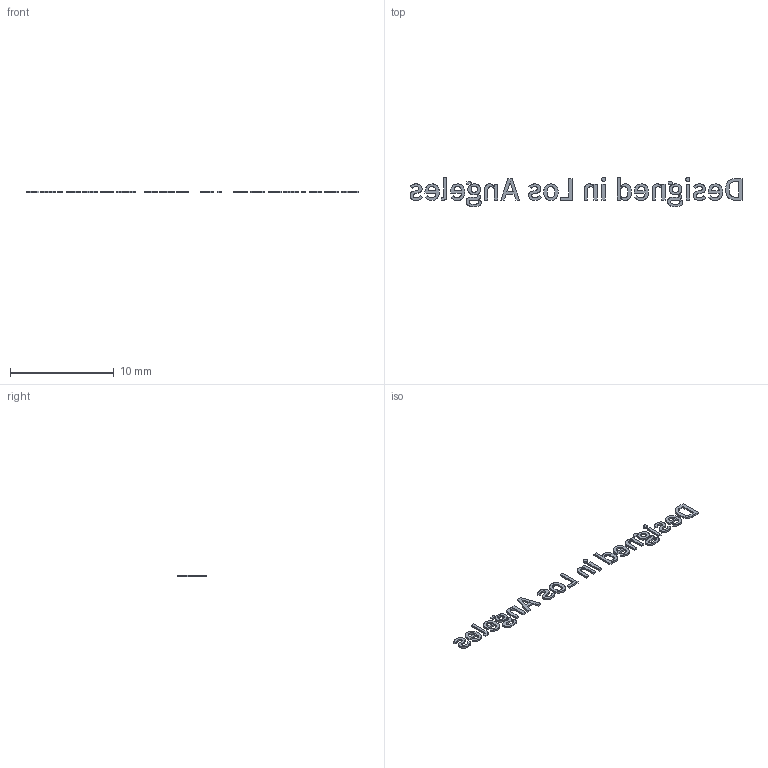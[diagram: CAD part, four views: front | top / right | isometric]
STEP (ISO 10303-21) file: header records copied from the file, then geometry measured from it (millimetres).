
FILE_DESCRIPTION(('Open CASCADE Model'),'2;1');
FILE_NAME('Open CASCADE Shape Model','2026-09-04T20:17:54',('Author'),( 'Open CASCADE'),'Open CASCADE STEP processor 7.7','Open CASCADE 7.7' ,'Unknown');
FILE_SCHEMA(('AUTOMOTIVE_DESIGN { 1 0 10303 214 1 1 1 1 }'));
Length unit declared in the file: millimetre
Products named in the file (23): Open CASCADE STEP translator 7.7 2; Open CASCADE STEP translator 7.7 2.1; Open CASCADE STEP translator 7.7 2.2; Open CASCADE STEP translator 7.7 2.3; Open CASCADE STEP translator 7.7 2.4; Open CASCADE STEP translator 7.7 2.5; Open CASCADE STEP translator 7.7 2.6; Open CASCADE STEP translator 7.7 2.7; Open CASCADE STEP translator 7.7 2.8; Open CASCADE STEP translator 7.7 2.9; Open CASCADE STEP translator 7.7 2.10; Open CASCADE STEP translator 7.7 2.11; Open CASCADE STEP translator 7.7 2.12; Open CASCADE STEP translator 7.7 2.13; Open CASCADE STEP translator 7.7 2.14; Open CASCADE STEP translator 7.7 2.15; Open CASCADE STEP translator 7.7 2.16; Open CASCADE STEP translator 7.7 2.17; Open CASCADE STEP translator 7.7 2.18; Open CASCADE STEP translator 7.7 2.19; Open CASCADE STEP translator 7.7 2.20; Open CASCADE STEP translator 7.7 2.21; Open CASCADE STEP translator 7.7 2.22
Assembly tree (22 placements, depth 2):
  Open CASCADE STEP translator 7.7 2
    Open CASCADE STEP translator 7.7 2.1
    Open CASCADE STEP translator 7.7 2.2
    Open CASCADE STEP translator 7.7 2.3
    Open CASCADE STEP translator 7.7 2.4
    Open CASCADE STEP translator 7.7 2.5
    Open CASCADE STEP translator 7.7 2.6
    Open CASCADE STEP translator 7.7 2.7
    Open CASCADE STEP translator 7.7 2.8
    Open CASCADE STEP translator 7.7 2.9
    Open CASCADE STEP translator 7.7 2.10
    Open CASCADE STEP translator 7.7 2.11
    Open CASCADE STEP translator 7.7 2.12
    Open CASCADE STEP translator 7.7 2.13
    Open CASCADE STEP translator 7.7 2.14
    Open CASCADE STEP translator 7.7 2.15
    Open CASCADE STEP translator 7.7 2.16
    Open CASCADE STEP translator 7.7 2.17
    Open CASCADE STEP translator 7.7 2.18
    Open CASCADE STEP translator 7.7 2.19
    Open CASCADE STEP translator 7.7 2.20
    Open CASCADE STEP translator 7.7 2.21
    Open CASCADE STEP translator 7.7 2.22
Bounding box: 32 x 2.81 x 0.17 mm (x, y, z)
Volume: 4 mm3; surface area: 75.5 mm2
Topology: 22 solids, 22 shells, 553 faces, 1527 edges, 1018 vertices
Faces by surface type: extrusion 362, plane 191
Entity records: 38228 total; most frequent: CARTESIAN_POINT 9795, DIRECTION 3923, VECTOR 3495, LINE 3133, ORIENTED_EDGE 3054, PCURVE 3054, DEFINITIONAL_REPRESENTATION 3054, B_SPLINE_CURVE_WITH_KNOTS 1810
